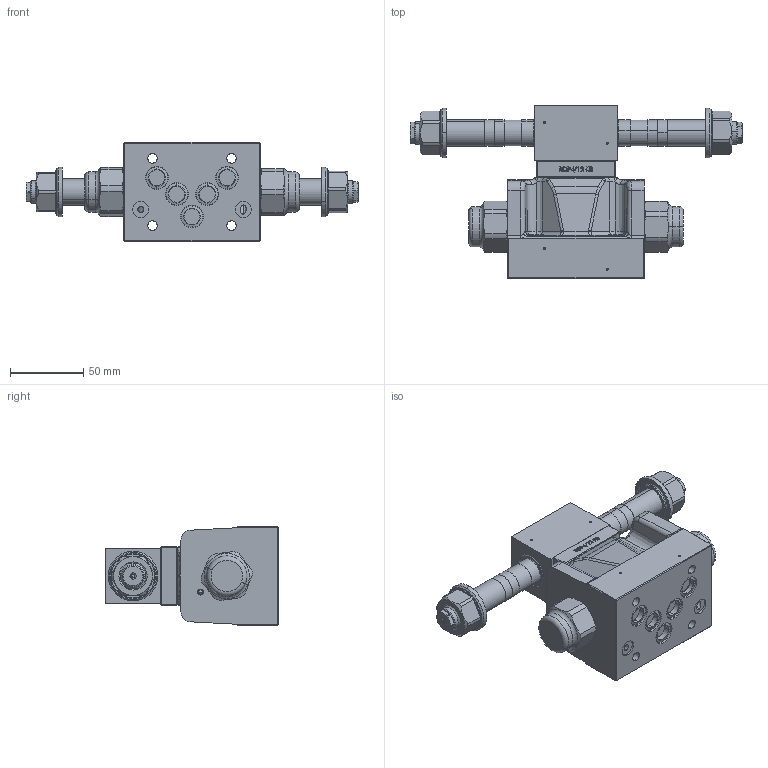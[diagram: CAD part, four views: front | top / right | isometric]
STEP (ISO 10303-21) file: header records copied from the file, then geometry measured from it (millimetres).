
FILE_DESCRIPTION (( 'STEP AP214' ), '1' );
FILE_NAME ('WVBFA10-4_3-ti_ae_xi_xe.STEP', '2018-06-12T06:15:22', ( '' ), ( '' ), 'SwSTEP 2.0', 'SolidWorks 2016', '' );
FILE_SCHEMA (( 'AUTOMOTIVE_DESIGN' ));
Length unit declared in the file: millimetre
Products named in the file (2): WVBFA10-4_3-ti_ae_xi_xe
Bounding box: 227 x 118.6 x 68 mm (x, y, z)
Volume: 551339.5 mm3; surface area: 89242.7 mm2
Topology: 7 solids, 13 shells, 1266 faces, 3025 edges, 1875 vertices
Faces by surface type: plane 448, cylinder 369, cone 182, bspline 180, torus 71, sphere 16
Entity records: 59515 total; most frequent: CARTESIAN_POINT 17543, ORIENTED_EDGE 5994, DIRECTION 5538, EDGE_CURVE 2997, AXIS2_PLACEMENT_3D 2076, VERTEX_POINT 1875, EDGE_LOOP 1426, VECTOR 1386
